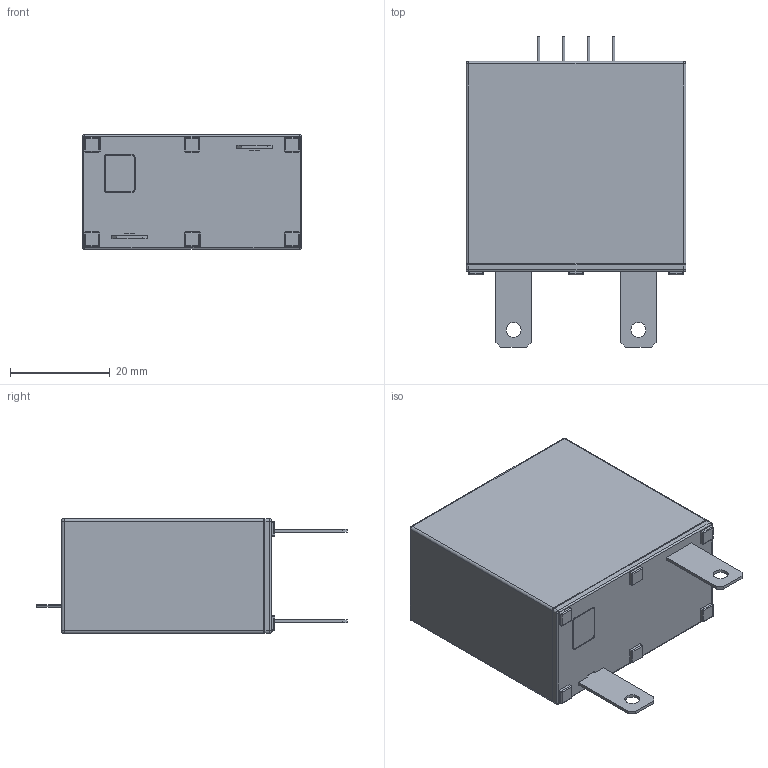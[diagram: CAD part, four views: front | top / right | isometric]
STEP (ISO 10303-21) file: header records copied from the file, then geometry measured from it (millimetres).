
FILE_DESCRIPTION((''),'2;1');
FILE_NAME('TFMOV40K-22-2IT-20200812','2020-08-12T',('SET-01114'),(''),'PRO/ENGINEER BY PARAMETRIC TECHNOLOGY CORPORATION, 2012310','PRO/ENGINEER BY PARAMETRIC TECHNOLOGY CORPORATION, 2012310','');
FILE_SCHEMA(('CONFIG_CONTROL_DESIGN','SHAPE_APPEARANCE_LAYERS_GROUPS'));
Length unit declared in the file: millimetre
Products named in the file (1): TFMOV40K-22-2IT-20200812
Bounding box: 44 x 62.2 x 23 mm (x, y, z)
Volume: 42615.4 mm3; surface area: 8319 mm2
Topology: 1 solids, 2 shells, 230 faces, 516 edges, 305 vertices
Faces by surface type: plane 94, cylinder 91, sphere 28, torus 12, bspline 5
Entity records: 8044 total; most frequent: CARTESIAN_POINT 1210, DIRECTION 1156, ORIENTED_EDGE 1032, PRESENTATION_STYLE_ASSIGNMENT 517, STYLED_ITEM 517, CURVE_STYLE 516, EDGE_CURVE 516, AXIS2_PLACEMENT_3D 421
